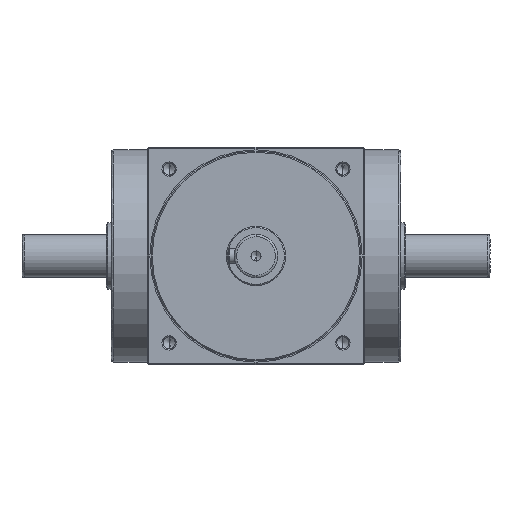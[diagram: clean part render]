
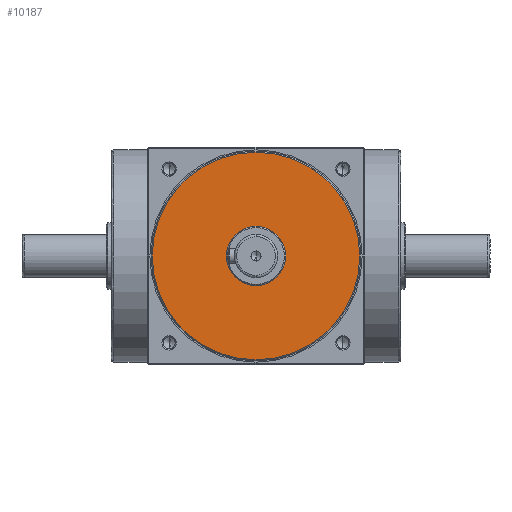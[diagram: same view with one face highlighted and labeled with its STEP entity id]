
A CAD part, front view. The second image highlights one B-rep face of the part: STEP entity #10187.
In plain terms, the highlighted planar face has unit normal (0, -1, 0).
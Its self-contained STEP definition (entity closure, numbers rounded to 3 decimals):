
#584 = EDGE_CURVE ( 'NONE', #3467, #14316, #1140, .T. ) ;
#600 = DIRECTION ( 'NONE',  ( 0., 0., 1. ) ) ;
#923 = AXIS2_PLACEMENT_3D ( 'NONE', #14379, #7393, #600 ) ;
#1140 = CIRCLE ( 'NONE', #5446, 43. ) ;
#1537 = CARTESIAN_POINT ( 'NONE',  ( 0., -98., 0. ) ) ;
#2191 = ORIENTED_EDGE ( 'NONE', *, *, #6997, .F. ) ;
#2728 = DIRECTION ( 'NONE',  ( 0., 0., 1. ) ) ;
#3104 = CARTESIAN_POINT ( 'NONE',  ( 0., -98., 0. ) ) ;
#3226 = ORIENTED_EDGE ( 'NONE', *, *, #12966, .T. ) ;
#3467 = VERTEX_POINT ( 'NONE', #8505 ) ;
#4075 = CARTESIAN_POINT ( 'NONE',  ( 0., -98., -12.25 ) ) ;
#4248 = DIRECTION ( 'NONE',  ( 0., 0., 1. ) ) ;
#4271 = VERTEX_POINT ( 'NONE', #10637 ) ;
#4472 = CARTESIAN_POINT ( 'NONE',  ( 0., -98., 0. ) ) ;
#4739 = AXIS2_PLACEMENT_3D ( 'NONE', #1537, #9512, #2728 ) ;
#5446 = AXIS2_PLACEMENT_3D ( 'NONE', #3104, #11054, #4248 ) ;
#5584 = DIRECTION ( 'NONE',  ( 0., 0., -1. ) ) ;
#5591 = CARTESIAN_POINT ( 'NONE',  ( 0., -98., 0. ) ) ;
#6294 = EDGE_CURVE ( 'NONE', #10990, #4271, #7829, .T. ) ;
#6725 = DIRECTION ( 'NONE',  ( 0., 0., 1. ) ) ;
#6986 = EDGE_LOOP ( 'NONE', ( #3226, #11461 ) ) ;
#6997 = EDGE_CURVE ( 'NONE', #14316, #3467, #11122, .T. ) ;
#7393 = DIRECTION ( 'NONE',  ( 0., 1., 0. ) ) ;
#7814 = CARTESIAN_POINT ( 'NONE',  ( 0., -98., 43. ) ) ;
#7829 = CIRCLE ( 'NONE', #4739, 12.25 ) ;
#8505 = CARTESIAN_POINT ( 'NONE',  ( 0., -98., -43. ) ) ;
#8523 = EDGE_LOOP ( 'NONE', ( #2191, #10537 ) ) ;
#9512 = DIRECTION ( 'NONE',  ( 0., 1., 0. ) ) ;
#9534 = CIRCLE ( 'NONE', #13063, 12.25 ) ;
#10187 = ADVANCED_FACE ( 'NONE', ( #10499, #10394 ), #12406, .T. ) ;
#10394 = FACE_OUTER_BOUND ( 'NONE', #8523, .T. ) ;
#10499 = FACE_BOUND ( 'NONE', #6986, .T. ) ;
#10537 = ORIENTED_EDGE ( 'NONE', *, *, #584, .F. ) ;
#10637 = CARTESIAN_POINT ( 'NONE',  ( 0., -98., 12.25 ) ) ;
#10990 = VERTEX_POINT ( 'NONE', #4075 ) ;
#11054 = DIRECTION ( 'NONE',  ( 0., 1., 0. ) ) ;
#11122 = CIRCLE ( 'NONE', #923, 43. ) ;
#11461 = ORIENTED_EDGE ( 'NONE', *, *, #6294, .T. ) ;
#12406 = PLANE ( 'NONE',  #14419 ) ;
#12462 = DIRECTION ( 'NONE',  ( 0., -1., 0. ) ) ;
#12966 = EDGE_CURVE ( 'NONE', #4271, #10990, #9534, .T. ) ;
#13063 = AXIS2_PLACEMENT_3D ( 'NONE', #5591, #13678, #6725 ) ;
#13678 = DIRECTION ( 'NONE',  ( 0., 1., 0. ) ) ;
#14316 = VERTEX_POINT ( 'NONE', #7814 ) ;
#14379 = CARTESIAN_POINT ( 'NONE',  ( 0., -98., 0. ) ) ;
#14419 = AXIS2_PLACEMENT_3D ( 'NONE', #4472, #12462, #5584 ) ;
